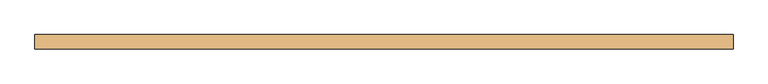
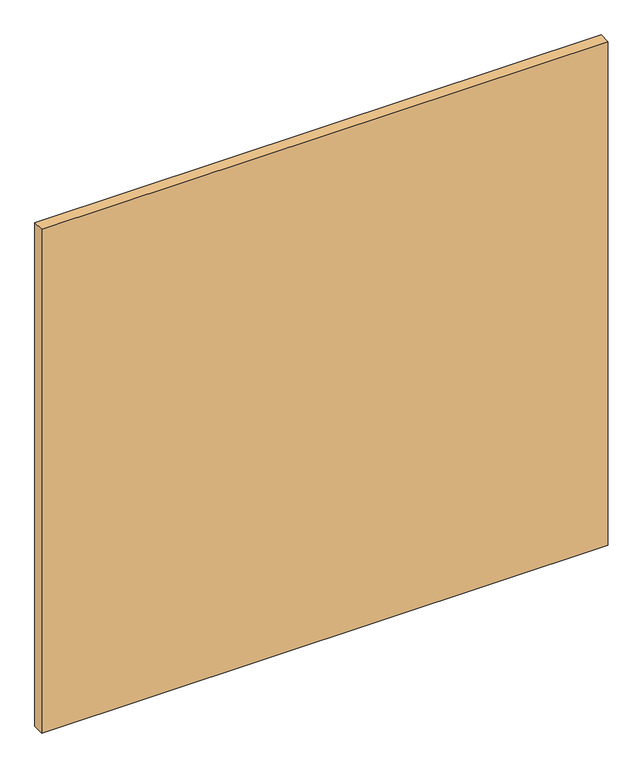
"""IFC4 building model written with IfcOpenShell, lengths in millimetres: door geometry, Puerta elevada articulada : Puerta Plagadiza 2.50x2.35 m."""

import ifcopenshell
import ifcopenshell.guid

model = None  # the IFC model being written
_history = None  # IfcOwnerHistory: only IFC2X3 demands one
_inside = {}  # id of a spatial element -> (the spatial element, [elements in it])
_under = {}  # id of a project, library or spatial element -> (it, [spatial elements below it])
_declared = {}  # id of a project -> (the project, [libraries it declares])
_typed = {}  # id of a type object -> (the type object, [elements of that type])
_made_of = {}  # id of a material, layer set ... -> (it, [elements and type objects made of it])


def new_model(schema):
    """Start an empty IFC model of exactly this schema.

    Asked for "IFC4X3", IfcOpenShell would pick the latest addendum, in which some entities
    have other attributes; the version numbers below select the first issue.
    IFC2X3 requires an IfcOwnerHistory on every rooted entity: one is made here for all.
    """
    global model, _history
    if schema == "IFC4X3":
        model = ifcopenshell.file(schema_version=(4, 3, 0, 0))
    else:
        model = ifcopenshell.file(schema=schema)
    _inside.clear()
    _under.clear()
    _declared.clear()
    _typed.clear()
    _made_of.clear()
    _history = None
    if model.schema == "IFC2X3":
        org = make("IfcOrganization", Name="unknown")
        user = make(
            "IfcPersonAndOrganization",
            ThePerson=make("IfcPerson", FamilyName="unknown"),
            TheOrganization=org,
        )
        app = make(
            "IfcApplication",
            ApplicationDeveloper=org,
            Version="unknown",
            ApplicationFullName="unknown",
            ApplicationIdentifier="unknown",
        )
        _history = make(
            "IfcOwnerHistory",
            OwningUser=user,
            OwningApplication=app,
            ChangeAction="ADDED",
            CreationDate=0,
        )
    return model


def make(cls, **values):
    """One entity of the class cls with the attributes given. An attribute that is None is left unset."""
    return model.create_entity(
        cls, **{name: value for name, value in values.items() if value is not None}
    )


def rooted(cls, **values):
    """An entity with a GlobalId (a new one), such as an element, a storey or a relation."""
    return make(cls, GlobalId=ifcopenshell.guid.new(), OwnerHistory=_history, **values)


def si_unit(unit_type, name, prefix=None):
    """IfcSIUnit, for example si_unit("LENGTHUNIT", "METRE", prefix="MILLI")."""
    return make("IfcSIUnit", UnitType=unit_type, Prefix=prefix, Name=name)


def assignment(units):
    """IfcUnitAssignment: the units of a project."""
    return None if units is None else make("IfcUnitAssignment", Units=units)


def point(xyz):
    """IfcCartesianPoint."""
    return None if xyz is None else make("IfcCartesianPoint", Coordinates=xyz)


def direction(xyz):
    """IfcDirection."""
    return None if xyz is None else make("IfcDirection", DirectionRatios=xyz)


def frame(location, z_axis=None, x_axis=None):
    """IfcAxis2Placement3D, a coordinate frame: its origin and axes. An axis left out is left unset."""
    return make(
        "IfcAxis2Placement3D",
        Location=point(location),
        Axis=direction(z_axis),
        RefDirection=direction(x_axis),
    )


def origin():
    """The frame at (0, 0, 0) with its axes left unset."""
    return frame((0.0, 0.0, 0.0))


def origin_with_axes():
    """The frame at (0, 0, 0) with the z axis (0, 0, 1) and the x axis (1, 0, 0) written out."""
    return frame((0.0, 0.0, 0.0), z_axis=(0.0, 0.0, 1.0), x_axis=(1.0, 0.0, 0.0))


def place(relative_to, where):
    """IfcLocalPlacement: puts the frame where relative to a parent placement (None: the world)."""
    return make(
        "IfcLocalPlacement", PlacementRelTo=relative_to, RelativePlacement=where
    )


def context(
    kind, dimensions, precision=None, world=None, true_north=None, identifier=None
):
    """IfcGeometricRepresentationContext, for example the 3D "Model" context."""
    return make(
        "IfcGeometricRepresentationContext",
        ContextIdentifier=identifier,
        ContextType=kind,
        CoordinateSpaceDimension=dimensions,
        Precision=precision,
        WorldCoordinateSystem=world,
        TrueNorth=true_north,
    )


def project(units=None, contexts=None):
    """IfcProject with its units and contexts."""
    return rooted(
        "IfcProject",
        Name="project",
        RepresentationContexts=contexts,
        UnitsInContext=assignment(units),
    )


def spatial(cls, under=None, at=None, **own):
    """A site, building, storey or space (cls), placed at a placement, below another one or the project."""
    s = rooted(cls, ObjectPlacement=at, **own)
    if under is not None:
        _under.setdefault(under.id(), (under, []))[1].append(s)
    return s


def polyline(points):
    """IfcPolyline through the points."""
    return make("IfcPolyline", Points=[point(p) for p in points])


def outline(outer, holes=None, kind="AREA"):
    """IfcArbitraryClosedProfileDef: a profile drawn as a closed curve; with holes, ...WithVoids."""
    if holes is None:
        return make("IfcArbitraryClosedProfileDef", ProfileType=kind, OuterCurve=outer)
    return make(
        "IfcArbitraryProfileDefWithVoids",
        ProfileType=kind,
        OuterCurve=outer,
        InnerCurves=holes,
    )


def extrude(swept, where, along, depth):
    """IfcExtrudedAreaSolid: the profile swept, set in the frame where, extruded along a direction by depth."""
    return make(
        "IfcExtrudedAreaSolid",
        SweptArea=swept,
        Position=where,
        ExtrudedDirection=direction(along),
        Depth=depth,
    )


def shape(context_of_items, identifier, shape_type, items):
    """IfcShapeRepresentation: the items that make up one representation, for example the "Body"."""
    return make(
        "IfcShapeRepresentation",
        ContextOfItems=context_of_items,
        RepresentationIdentifier=identifier,
        RepresentationType=shape_type,
        Items=items,
    )


def source(mapping_origin, context_of_items, identifier, shape_type, items):
    """IfcRepresentationMap: a shape defined once, which mapped items show again and again."""
    return make(
        "IfcRepresentationMap",
        MappingOrigin=mapping_origin,
        MappedRepresentation=shape(context_of_items, identifier, shape_type, items),
    )


def transform(
    local_origin,
    x_axis=None,
    y_axis=None,
    z_axis=None,
    scale=None,
    scale2=None,
    scale3=None,
    uniform=True,
):
    """IfcCartesianTransformationOperator3D, or its non-uniform kind. x_axis, y_axis, z_axis: its Axis1, 2, 3."""
    if uniform:
        return make(
            "IfcCartesianTransformationOperator3D",
            Axis1=direction(x_axis),
            Axis2=direction(y_axis),
            LocalOrigin=point(local_origin),
            Scale=scale,
            Axis3=direction(z_axis),
        )
    return make(
        "IfcCartesianTransformationOperator3DnonUniform",
        Axis1=direction(x_axis),
        Axis2=direction(y_axis),
        LocalOrigin=point(local_origin),
        Scale=scale,
        Axis3=direction(z_axis),
        Scale2=scale2,
        Scale3=scale3,
    )


def mapped(mapping_source, mapping_target):
    """IfcMappedItem: shows the shape of a source again, moved by a transform."""
    return make(
        "IfcMappedItem", MappingSource=mapping_source, MappingTarget=mapping_target
    )


def made_of(thing, what):
    """Note that an element or type object is made of a material, layer set ...; save() writes the relation."""
    if what is not None:
        _made_of.setdefault(what.id(), (what, []))[1].append(thing)
    return thing


def element(
    cls,
    number,
    at=None,
    inside=None,
    cuts=None,
    type_object=None,
    material=None,
    context=None,
    identifier="Body",
    shape_type=None,
    held_by="IfcProductDefinitionShape",
    body=None,
    shapes=None,
    **own,
):
    """One element of the class cls, such as IfcWall. Its Tag is "e" and its number.

    at: its placement. inside: the storey or other place that contains it. cuts: it is an
    opening in that element (IfcRelVoidsElement). A single representation is given by context,
    identifier, shape_type and body (its items); several are given by shapes. held_by: the class
    of the entity that holds the representations. save() writes the other relations.
    """
    e = rooted(cls, Tag="e%d" % number, ObjectPlacement=at, **own)
    if body is not None:
        shapes = [shape(context, identifier, shape_type, body)]
    if shapes is not None:
        e.Representation = make(held_by, Representations=shapes)
    if inside is not None:
        _inside.setdefault(inside.id(), (inside, []))[1].append(e)
    if cuts is not None:
        rooted(
            "IfcRelVoidsElement", RelatingBuildingElement=cuts, RelatedOpeningElement=e
        )
    if type_object is not None:
        _typed.setdefault(type_object.id(), (type_object, []))[1].append(e)
    return made_of(e, material)


def aggregate(whole, parts):
    """IfcRelAggregates: a whole, such as a stair, and the parts it consists of."""
    return rooted("IfcRelAggregates", RelatingObject=whole, RelatedObjects=parts)


def save(model, path):
    """Write the relations noted so far, then the file.

    IfcRelAggregates (storeys below a building ...), IfcRelContainedInSpatialStructure (elements
    in a storey), IfcRelDefinesByType, IfcRelAssociatesMaterial and IfcRelDeclares: one each for
    every whole, place, type object, material and project.
    """
    for whole, parts in _under.values():
        aggregate(whole, parts)
    for where, things in _inside.values():
        rooted(
            "IfcRelContainedInSpatialStructure",
            RelatedElements=things,
            RelatingStructure=where,
        )
    for kind, things in _typed.values():
        rooted("IfcRelDefinesByType", RelatedObjects=things, RelatingType=kind)
    for what, things in _made_of.values():
        rooted("IfcRelAssociatesMaterial", RelatedObjects=things, RelatingMaterial=what)
    for by, libraries in _declared.values():
        rooted("IfcRelDeclares", RelatingContext=by, RelatedDefinitions=libraries)
    model.write(path)


def door_557ff3ed(model_context):
    return source(origin(), model_context, "Body", "SweptSolid", [
        extrude(outline(polyline([(1250.0, -75.0), (1250.0, -126.0), (-1250.0, -126.0), (-1250.0, -75.0), (1250.0, -75.0)])), origin_with_axes(), (0.0, 0.0, 1.0), 2350.0),
    ])


if __name__ == "__main__":
    model = new_model("IFC4")
    model_context = context("Model", 3, world=origin())
    ifc_project = project(units=[si_unit("LENGTHUNIT", "METRE", prefix="MILLI")], contexts=[model_context])
    site = spatial("IfcSite", under=ifc_project)
    building = spatial("IfcBuilding", under=site)
    placement = place(None, origin())
    door_shape = door_557ff3ed(model_context)
    element("IfcDoor", 1, ObjectType="Puerta elevada articulada : Puerta Plagadiza 2.50x2.35 m", at=placement, inside=building, context=model_context, shape_type="MappedRepresentation", body=[
        mapped(door_shape, transform((0.0, 0.0, 0.0), x_axis=(1.0, 0.0, 0.0), y_axis=(0.0, 1.0, 0.0), z_axis=(0.0, 0.0, 1.0))),
    ])
    save(model, "model.ifc")
